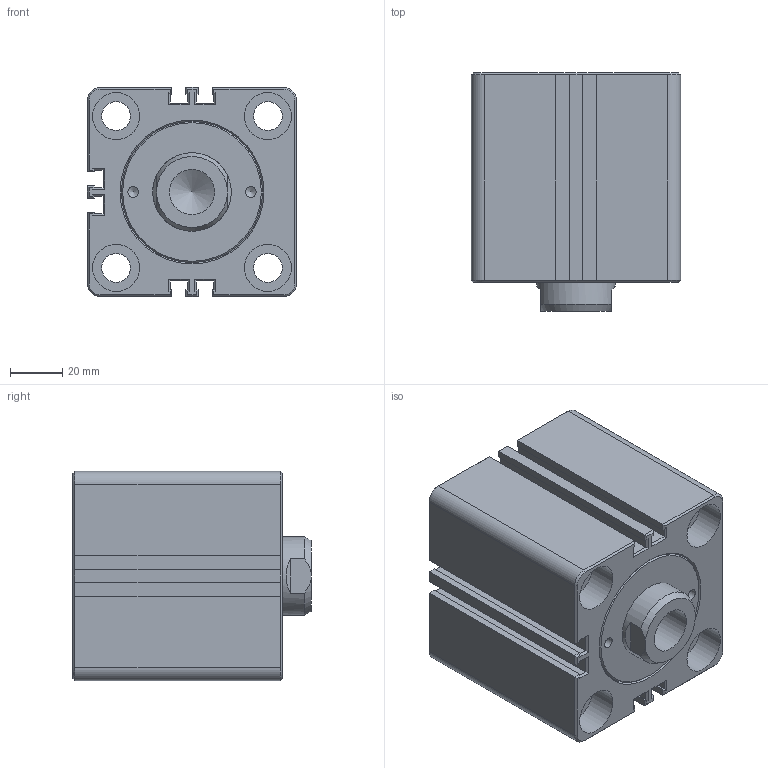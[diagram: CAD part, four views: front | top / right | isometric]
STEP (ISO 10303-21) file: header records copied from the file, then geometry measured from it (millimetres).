
FILE_DESCRIPTION(/* description */ ('Unknown'),/* implementation_level */ '2;1');
FILE_NAME(/* name */ 'HTM70-SDMB50X20N',/* time_stamp */ '2022-08-31T05:43:56+08:00',/* author */ ('Unknown'),/* organization */ ('Unknown'),/* preprocessor_version */ 'ST-DEVELOPER v16.7',/* originating_system */ 'DEX',/* authorisation */ $);
FILE_SCHEMA (('AUTOMOTIVE_DESIGN {1 0 10303 214 3 1 1}'));
Length unit declared in the file: millimetre
Products named in the file (1): HTM70-SDMB50X20N
Bounding box: 80 x 91 x 80 mm (x, y, z)
Volume: 446678.3 mm3; surface area: 61455.2 mm2
Topology: 1 solids, 1 shells, 285 faces, 663 edges, 400 vertices
Faces by surface type: plane 182, cone 40, bspline 36, cylinder 27
Full cylindrical faces by diameter (mm): 4.1 x2, 6 x3, 11 x4, 12 x2, 13 x2, 17.294 x1, 18 x8, 30 x1
Entity records: 9975 total; most frequent: CARTESIAN_POINT 1979, ORIENTED_EDGE 1218, DIRECTION 1116, EDGE_CURVE 609, LINE 402, VECTOR 402, VERTEX_POINT 386, AXIS2_PLACEMENT_3D 357
